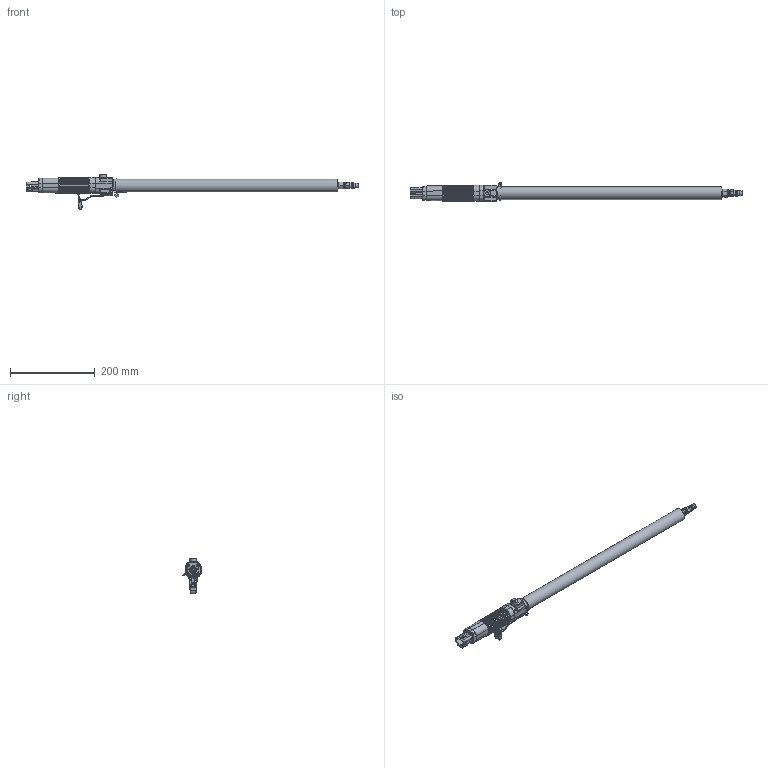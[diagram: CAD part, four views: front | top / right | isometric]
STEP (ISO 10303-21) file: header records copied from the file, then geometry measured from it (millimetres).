
FILE_DESCRIPTION(/* description */ (''),/* implementation_level */ '2;1');
FILE_NAME(/* name */ '',/* time_stamp */ '2026-07-02T11:56:09+09:00',/* author */ (''),/* organization */ (''),/* preprocessor_version */ 'ST-DEVELOPER v20.1',/* originating_system */ 'Autodesk Translation Framework v15.8.0.0',/* authorisation */ '');
FILE_SCHEMA (('AUTOMOTIVE_DESIGN { 1 0 10303 214 3 1 1 }'));
Products named in the file (1): 2026-06-26-10-59-59-853
Bounding box: 782.05 x 43.82 x 83.49 mm (x, y, z)
Volume: 327423.6 mm3; surface area: 184884.7 mm2
Topology: 9 solids, 9 shells, 1289 faces, 3622 edges, 2368 vertices
Faces by surface type: cylinder 726, plane 393, bspline 83, torus 52, cone 26, sphere 9
Full cylindrical faces by diameter (mm): 1.5 x4, 1.8 x1, 2 x4, 2.356 x36, 2.529 x32, 2.927 x76, 3 x2, 3.086 x21, 3.332 x3, 3.99 x6, 4 x1, 4.109 x3, 4.901 x6, 5.12 x6, 5.5 x8, 6 x7, 7.6 x1, 7.7 x1, 9 x1, 10.4 x2, 10.85 x1, 11 x2, 11.445 x8, 12 x2, 12.4 x2, 13 x2, 13.1 x2, 13.157 x11, 13.3 x1, 14 x1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
Entity records: 83404 total; most frequent: CARTESIAN_POINT 52044, ORIENTED_EDGE 7236, DIRECTION 5390, EDGE_CURVE 3618, VERTEX_POINT 2368, AXIS2_PLACEMENT_3D 1926, LINE 1538, VECTOR 1538
